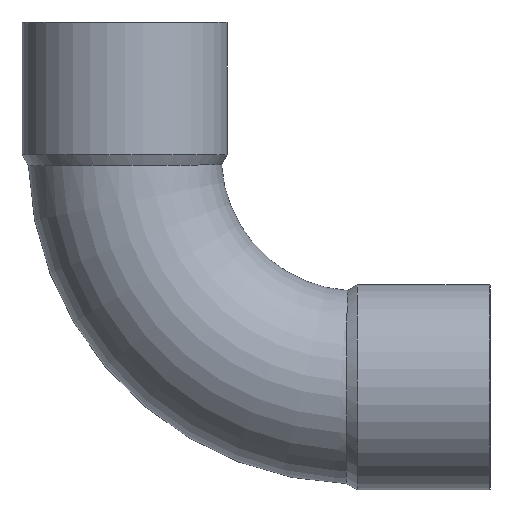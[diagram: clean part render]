
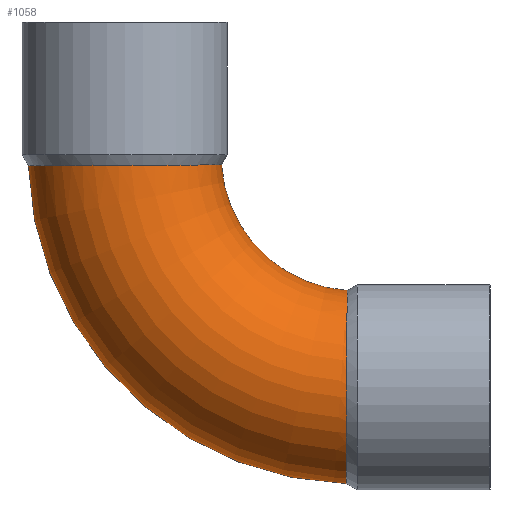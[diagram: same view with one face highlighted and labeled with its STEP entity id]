
A CAD part, front view. The second image highlights one B-rep face of the part: STEP entity #1058.
In plain terms, the highlighted toroidal (fillet/blend) face has major radius 33.6 mm and minor radius 14 mm.
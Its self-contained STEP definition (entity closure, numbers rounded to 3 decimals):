
#49=CARTESIAN_POINT('',(-25.543,0.,-1.438));
#50=VERTEX_POINT('',#49);
#51=CARTESIAN_POINT('',(20.597,0.,-47.578));
#52=VERTEX_POINT('',#51);
#53=CARTESIAN_POINT('',(22.035,0.,0.0));
#54=DIRECTION('',(0.0,-1.0,0.0));
#55=DIRECTION('',(0.0,0.0,-1.0));
#56=AXIS2_PLACEMENT_3D('',#53,#54,#55);
#57=CIRCLE('',#56,47.6);
#58=EDGE_CURVE('',#50,#52,#57,.T.);
#60=CARTESIAN_POINT('',(2.48,0.,-1.323));
#61=VERTEX_POINT('',#60);
#85=CARTESIAN_POINT('',(20.712,0.,-19.555));
#86=VERTEX_POINT('',#85);
#87=CARTESIAN_POINT('',(22.035,0.,0.0));
#88=DIRECTION('',(0.0,1.0,0.0));
#89=DIRECTION('',(0.0,0.0,-1.0));
#90=AXIS2_PLACEMENT_3D('',#87,#88,#89);
#91=CIRCLE('',#90,19.6);
#92=EDGE_CURVE('',#86,#61,#91,.T.);
#224=CARTESIAN_POINT('',(2.48,0.,-1.323));
#225=CARTESIAN_POINT('',(2.48,-0.121,-1.323));
#226=CARTESIAN_POINT('',(2.478,-0.242,-1.323));
#227=CARTESIAN_POINT('',(2.428,-2.185,-1.323));
#228=CARTESIAN_POINT('',(2.025,-3.979,-1.327));
#229=CARTESIAN_POINT('',(0.552,-7.315,-1.338));
#230=CARTESIAN_POINT('',(-0.504,-8.824,-1.346));
#231=CARTESIAN_POINT('',(-3.137,-11.354,-1.362));
#232=CARTESIAN_POINT('',(-4.688,-12.35,-1.371));
#233=CARTESIAN_POINT('',(-8.085,-13.691,-1.387));
#234=CARTESIAN_POINT('',(-9.897,-14.023,-1.394));
#235=CARTESIAN_POINT('',(-13.547,-13.974,-1.407));
#236=CARTESIAN_POINT('',(-15.349,-13.594,-1.413));
#237=CARTESIAN_POINT('',(-18.706,-12.165,-1.422));
#238=CARTESIAN_POINT('',(-20.228,-11.129,-1.426));
#239=CARTESIAN_POINT('',(-22.789,-8.534,-1.432));
#240=CARTESIAN_POINT('',(-23.803,-6.999,-1.434));
#241=CARTESIAN_POINT('',(-25.187,-3.627,-1.437));
#242=CARTESIAN_POINT('',(-25.543,-1.822,-1.438));
#243=CARTESIAN_POINT('',(-25.543,0.,-1.438));
#244=B_SPLINE_CURVE_WITH_KNOTS('',3,(#224,#225,#226,#227,#228,#229,#230,#231,#232,#233,#234,#235,#236,#237,#238,#239,#240,#241,#242,#243),.UNSPECIFIED.,.F.,.U.,(4,2,2,2,2,2,2,2,2,4),(-4.414,-4.377,-3.831,-3.283,-2.736,-2.188,-1.641,-1.093,-0.547,0.0),.UNSPECIFIED.);
#245=EDGE_CURVE('',#61,#50,#244,.T.);
#1025=CARTESIAN_POINT('',(22.035,0.,0.0));
#1026=DIRECTION('',(0.0,-1.0,0.0));
#1027=DIRECTION('',(0.0,0.0,-1.0));
#1028=AXIS2_PLACEMENT_3D('',#1025,#1026,#1027);
#1029=TOROIDAL_SURFACE('',#1028,33.6,14.);
#1030=ORIENTED_EDGE('',*,*,#58,.T.);
#1031=CARTESIAN_POINT('',(20.597,0.,-47.578));
#1032=CARTESIAN_POINT('',(20.597,-1.032,-47.578));
#1033=CARTESIAN_POINT('',(20.598,-2.061,-47.464));
#1034=CARTESIAN_POINT('',(20.599,-4.074,-47.012));
#1035=CARTESIAN_POINT('',(20.599,-5.053,-46.675));
#1036=CARTESIAN_POINT('',(20.602,-7.634,-45.454));
#1037=CARTESIAN_POINT('',(20.604,-9.114,-44.36));
#1038=CARTESIAN_POINT('',(20.611,-11.571,-41.664));
#1039=CARTESIAN_POINT('',(20.615,-12.526,-40.089));
#1040=CARTESIAN_POINT('',(20.625,-13.777,-36.66));
#1041=CARTESIAN_POINT('',(20.63,-14.061,-34.839));
#1042=CARTESIAN_POINT('',(20.644,-13.917,-31.19));
#1043=CARTESIAN_POINT('',(20.652,-13.488,-29.397));
#1044=CARTESIAN_POINT('',(20.668,-11.969,-26.077));
#1045=CARTESIAN_POINT('',(20.676,-10.893,-24.581));
#1046=CARTESIAN_POINT('',(20.693,-8.231,-22.089));
#1047=CARTESIAN_POINT('',(20.7,-6.671,-21.115));
#1048=CARTESIAN_POINT('',(20.71,-3.38,-19.864));
#1049=CARTESIAN_POINT('',(20.712,-1.697,-19.555));
#1050=CARTESIAN_POINT('',(20.712,0.,-19.555));
#1051=B_SPLINE_CURVE_WITH_KNOTS('',3,(#1031,#1032,#1033,#1034,#1035,#1036,#1037,#1038,#1039,#1040,#1041,#1042,#1043,#1044,#1045,#1046,#1047,#1048,#1049,#1050),.UNSPECIFIED.,.F.,.U.,(4,2,2,2,2,2,2,2,2,4),(-8.826,-8.517,-8.207,-7.66,-7.113,-6.565,-6.017,-5.47,-4.923,-4.414),.UNSPECIFIED.);
#1052=EDGE_CURVE('',#52,#86,#1051,.T.);
#1053=ORIENTED_EDGE('',*,*,#1052,.T.);
#1054=ORIENTED_EDGE('',*,*,#92,.T.);
#1055=ORIENTED_EDGE('',*,*,#245,.T.);
#1056=EDGE_LOOP('',(#1030,#1053,#1054,#1055));
#1057=FACE_OUTER_BOUND('',#1056,.T.);
#1058=ADVANCED_FACE('',(#1057),#1029,.T.);
